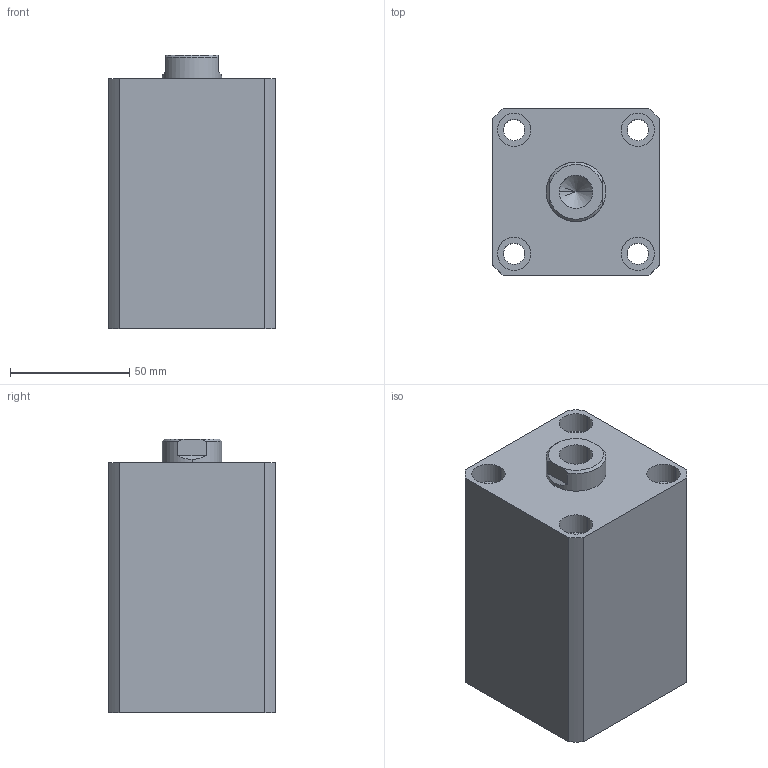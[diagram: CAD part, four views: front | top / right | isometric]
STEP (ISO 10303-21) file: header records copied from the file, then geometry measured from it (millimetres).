
FILE_DESCRIPTION (( 'STEP AP203' ), '1' );
FILE_NAME ('HTB-SDMB40-50N.STEP', '2019-10-09T01:54:59', ( '微软用户' ), ( '微软中国' ), 'SwSTEP 2.0', 'SolidWorks 2012', '' );
FILE_SCHEMA (( 'CONFIG_CONTROL_DESIGN' ));
Length unit declared in the file: millimetre
Products named in the file (3): HTB-SDMB40-50N; HTB-SDMB40-50N活塞杆; HTB-SDMB40-50掛极
Assembly tree (2 placements, depth 2):
  HTB-SDMB40-50N
    HTB-SDMB40-50掛极
    HTB-SDMB40-50N活塞杆
Bounding box: 70 x 70 x 115 mm (x, y, z)
Volume: 439402.6 mm3; surface area: 75753.1 mm2
Topology: 2 solids, 2 shells, 137 faces, 331 edges, 217 vertices
Faces by surface type: plane 65, cylinder 46, bspline 16, torus 6, cone 4
Entity records: 5074 total; most frequent: CARTESIAN_POINT 1580, ORIENTED_EDGE 658, DIRECTION 647, EDGE_CURVE 329, AXIS2_PLACEMENT_3D 232, VERTEX_POINT 217, VECTOR 183, LINE 183
